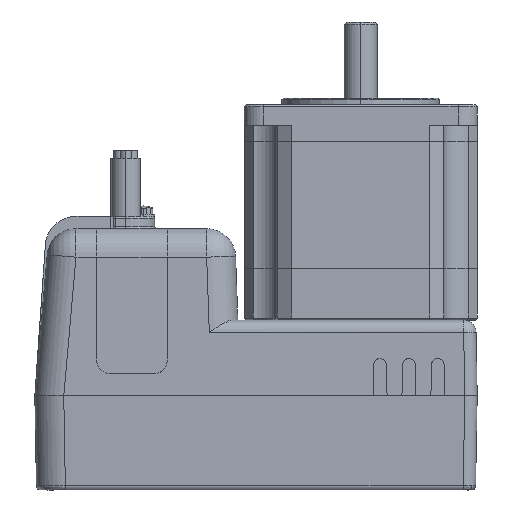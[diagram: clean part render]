
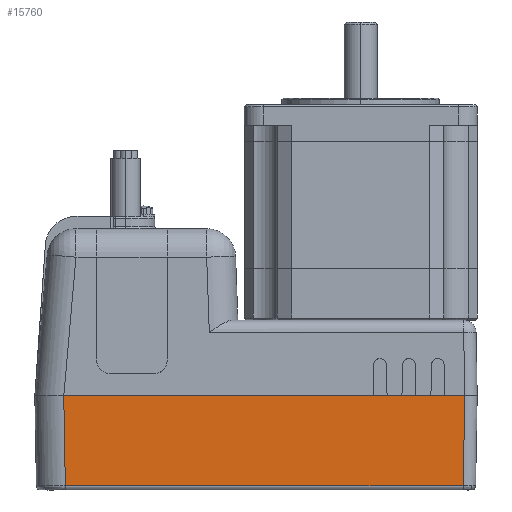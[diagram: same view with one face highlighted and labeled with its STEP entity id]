
A CAD part, left-side view. The second image highlights one B-rep face of the part: STEP entity #15760.
In plain terms, the highlighted planar face has unit normal (-1, 0, -0.018).
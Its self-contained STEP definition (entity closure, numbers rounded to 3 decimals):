
#527 = ORIENTED_EDGE ( 'NONE', *, *, #3344, .T. ) ;
#528 = ORIENTED_EDGE ( 'NONE', *, *, #3345, .T. ) ;
#529 = ORIENTED_EDGE ( 'NONE', *, *, #3346, .T. ) ;
#530 = ORIENTED_EDGE ( 'NONE', *, *, #3347, .F. ) ;
#2084 = EDGE_LOOP ( 'NONE', ( #527, #528, #529, #530 ) ) ;
#3344 = EDGE_CURVE ( 'NONE', #15045, #15047, #6321, .T. ) ;
#3345 = EDGE_CURVE ( 'NONE', #15047, #15042, #6324, .T. ) ;
#3346 = EDGE_CURVE ( 'NONE', #15042, #15048, #6326, .T. ) ;
#3347 = EDGE_CURVE ( 'NONE', #15045, #15048, #6328, .T. ) ;
#6321 = LINE ( 'NONE', #7101, #6323 ) ;
#6323 = VECTOR ( 'NONE', #7102, 1000. ) ;
#6324 = LINE ( 'NONE', #7103, #6325 ) ;
#6325 = VECTOR ( 'NONE', #7104, 1000. ) ;
#6326 = LINE ( 'NONE', #7105, #6327 ) ;
#6327 = VECTOR ( 'NONE', #7106, 1000. ) ;
#6328 = LINE ( 'NONE', #7107, #6329 ) ;
#6329 = VECTOR ( 'NONE', #7108, 1000. ) ;
#7101 = CARTESIAN_POINT ( 'NONE',  ( -33.47, 71.771, -72.144 ) ) ;
#7102 = DIRECTION ( 'NONE',  ( 0.017, -0.017, -1. ) ) ;
#7103 = CARTESIAN_POINT ( 'NONE',  ( -33.119, -24.802, -92.217 ) ) ;
#7104 = DIRECTION ( 'NONE',  ( 0., -1., 0. ) ) ;
#7105 = CARTESIAN_POINT ( 'NONE',  ( -33.501, -25.201, -70.348 ) ) ;
#7106 = DIRECTION ( 'NONE',  ( -0.017, -0.017, 1. ) ) ;
#7107 = CARTESIAN_POINT ( 'NONE',  ( -33.5, -28.2, -70.4 ) ) ;
#7108 = DIRECTION ( 'NONE',  ( 0., -1., 0. ) ) ;
#10923 = CARTESIAN_POINT ( 'NONE',  ( -33.119, -24.82, -92.217 ) ) ;
#10926 = CARTESIAN_POINT ( 'NONE',  ( -33.5, 71.801, -70.4 ) ) ;
#10928 = CARTESIAN_POINT ( 'NONE',  ( -33.119, 71.42, -92.217 ) ) ;
#10929 = CARTESIAN_POINT ( 'NONE',  ( -33.5, -25.2, -70.4 ) ) ;
#12596 = PLANE ( 'NONE',  #13814 ) ;
#12597 = CARTESIAN_POINT ( 'NONE',  ( -33.5, -28.2, -70.4 ) ) ;
#12598 = DIRECTION ( 'NONE',  ( -1., 0., -0.017 ) ) ;
#12599 = DIRECTION ( 'NONE',  ( -0.017, 0., 1. ) ) ;
#13349 = FACE_OUTER_BOUND ( 'NONE', #2084, .T. ) ;
#13814 = AXIS2_PLACEMENT_3D ( 'NONE', #12597, #12598, #12599 ) ;
#15042 = VERTEX_POINT ( 'NONE', #10923 ) ;
#15045 = VERTEX_POINT ( 'NONE', #10926 ) ;
#15047 = VERTEX_POINT ( 'NONE', #10928 ) ;
#15048 = VERTEX_POINT ( 'NONE', #10929 ) ;
#15760 = ADVANCED_FACE ( 'NONE', ( #13349 ), #12596, .T. ) ;
